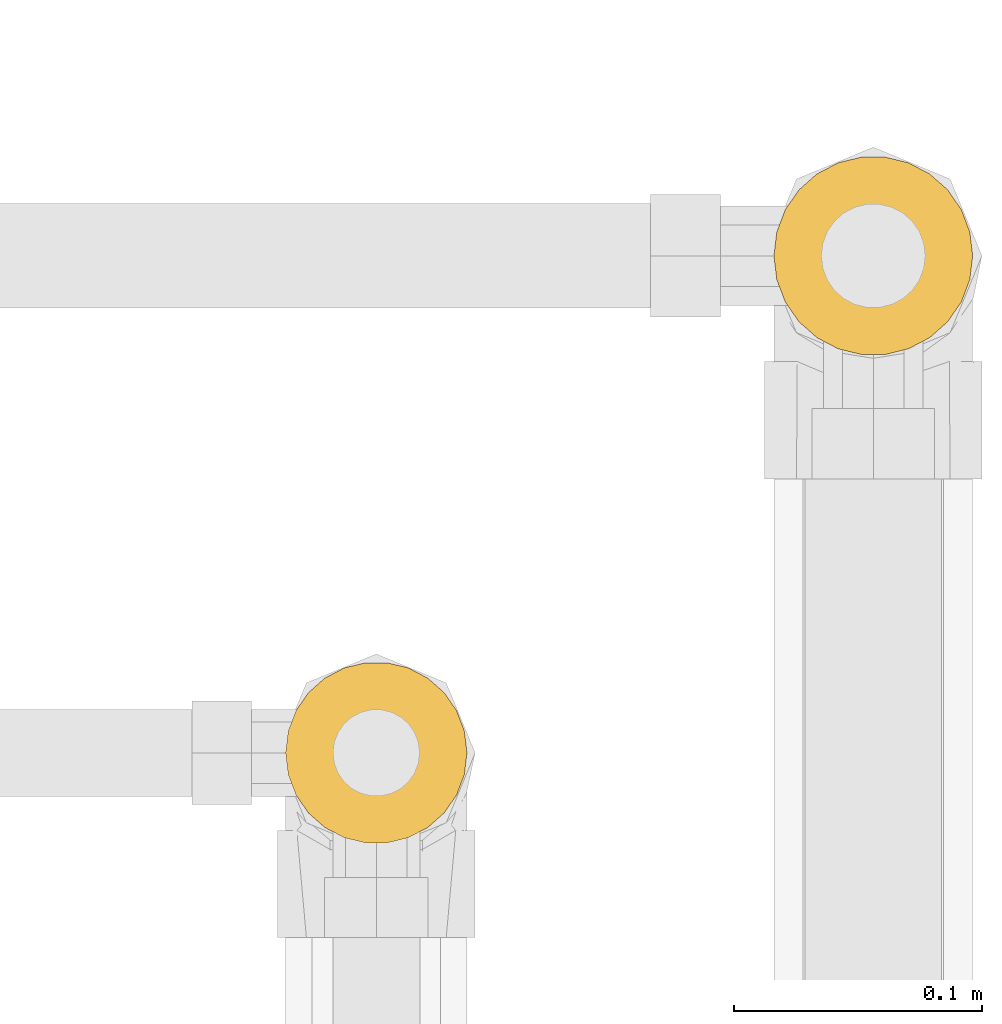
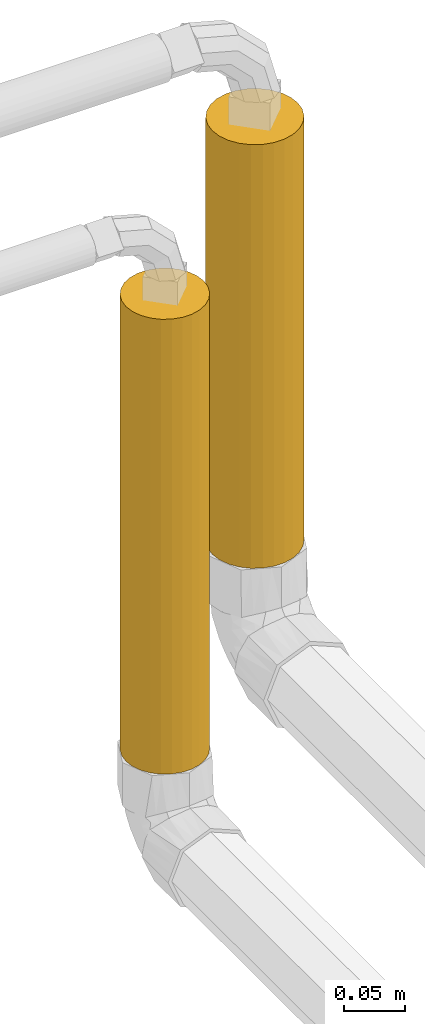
# One storey, part 66 of 652: 2 coverings.
"""IFC2X3 building model written with IfcOpenShell, lengths in millimetres."""

from ifc_helpers import new_model, entity, si_unit, converted_unit, direction, frame, origin, origin_2d_with_axis, place, context, subcontext, project, spatial, circle, extrude, material, type_object, element, save


model = new_model("IFC2X3")

# Units and contexts
model_context = context("Model", 3, precision=0.01, world=frame((0.0, 0.0, 308426.39999999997)), true_north=direction((6.123233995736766e-17, 1.0)))
plan_context = context("Plan", 3, precision=0.01, world=frame((0.0, 0.0, 308426.39999999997)), true_north=direction((6.123233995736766e-17, 1.0)))
body_context = subcontext(model_context, "Body", "Model", "MODEL_VIEW")
ifc_project = project(units=[si_unit("LENGTHUNIT", "METRE", prefix="MILLI"), si_unit("AREAUNIT", "SQUARE_METRE"), si_unit("VOLUMEUNIT", "CUBIC_METRE"), converted_unit("PLANEANGLEUNIT", "DEGREE", entity("IfcPlaneAngleMeasure", 0.017453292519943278), si_unit("PLANEANGLEUNIT", "RADIAN"), dimensions=[0, 0, 0, 0, 0, 0, 0])], contexts=[model_context, plan_context])

# Site, building, storey
site_placement = place(None, origin())
site = spatial("IfcSite", under=ifc_project, at=site_placement, Name="Default", CompositionType="ELEMENT")
building_placement = place(site_placement, origin())
building = spatial("IfcBuilding", under=site, at=building_placement, CompositionType="ELEMENT")
storey_placement = place(building_placement, frame((0.0, 0.0, 1730.6999999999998)))
storey = spatial("IfcBuildingStorey", under=building, at=storey_placement, Name="EG_Produktion_FFB", CompositionType="ELEMENT", Elevation=1730.6999999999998)

# Coverings
ifc_material = material(Name="Dämmung - Armaflex-Schlauch")
covering_type = type_object("IfcCoveringType", Name="Rohrdämmung außen:Armaflex-Schlauch", PredefinedType="INSULATION")
covering_1_placement = place(storey_placement, origin())
element("IfcCovering", 1, at=covering_1_placement, inside=storey, type_object=covering_type, material=ifc_material, Name="Rohrdämmung außen:Armaflex-Schlauch", ObjectType="Rohrdämmung außen:Armaflex-Schlauch", PredefinedType="INSULATION", context=body_context, shape_type="SweptSolid", body=[
    extrude(circle(Radius=36.5, at=origin_2d_with_axis()), frame((79422.09274770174, 84648.86066098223, 5074.249999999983)), (0.0, 0.0, 1.0), 451.5000000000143),
])
covering_2_placement = place(storey_placement, origin())
element("IfcCovering", 2, at=covering_2_placement, inside=storey, type_object=covering_type, material=ifc_material, Name="Rohrdämmung außen:Armaflex-Schlauch", ObjectType="Rohrdämmung außen:Armaflex-Schlauch", PredefinedType="INSULATION", context=body_context, shape_type="SweptSolid", body=[
    extrude(circle(Radius=40.0, at=origin_2d_with_axis()), frame((79622.09274770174, 84848.86066098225, 5089.719999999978), z_axis=(0.0, 0.0, 1.0), x_axis=(-1.0, 0.0, 0.0)), (0.0, 0.0, 1.0), 420.5600000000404),
])

save(model, "model.ifc")
